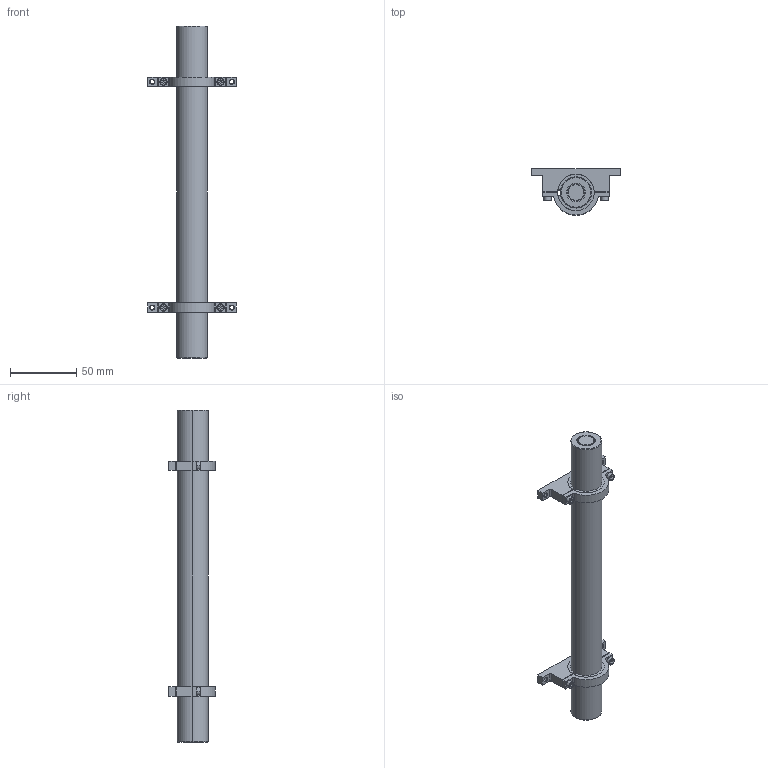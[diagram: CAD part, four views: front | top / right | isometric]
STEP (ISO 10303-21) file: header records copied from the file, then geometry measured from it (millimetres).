
FILE_DESCRIPTION (( 'STEP AP214' ), '1' );
FILE_NAME ('mtq800-150-asm-0001-2-20220816.STEP', '2022-11-15T10:47:29', ( '' ), ( '' ), 'SwSTEP 2.0', 'SolidWorks 2021', '' );
FILE_SCHEMA (( 'AUTOMOTIVE_DESIGN' ));
Length unit declared in the file: millimetre
Products named in the file (1): mtq800-150-asm-0001-2-20220816
Bounding box: 67 x 35 x 250 mm (x, y, z)
Volume: 120826.2 mm3; surface area: 69982 mm2
Topology: 13 solids, 13 shells, 254 faces, 588 edges, 356 vertices
Faces by surface type: plane 112, cylinder 76, cone 58, torus 8
Entity records: 7250 total; most frequent: DIRECTION 1322, CARTESIAN_POINT 1183, ORIENTED_EDGE 1144, EDGE_CURVE 572, AXIS2_PLACEMENT_3D 495, VERTEX_POINT 356, LINE 332, VECTOR 332
